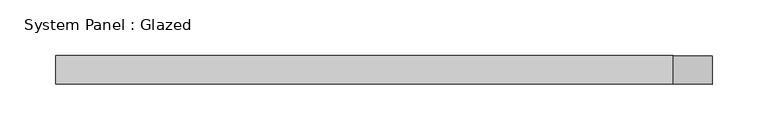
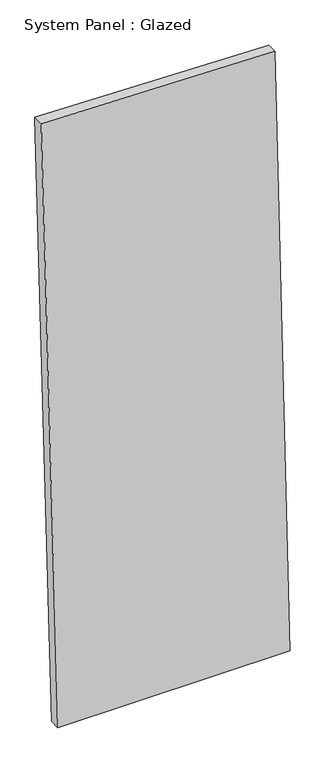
"""IFC4 building model written with IfcOpenShell, lengths in millimetres: plate geometry, System Panel : Glazed."""

from ifc_helpers import new_model, si_unit, frame, origin, place, context, project, spatial, polyline, outline, extrude, source, transform, mapped, element, save


def system_panel_glazed_0f1dc422(model_context):
    return source(origin(), model_context, "Body", "SweptSolid", [
        extrude(outline(polyline([(0.0, -253.9477032), (0.0, 293.6414966), (1505.8333476, 258.8553566), (1519.2055561, -293.6414966), (0.0, -253.9477032)])), frame((0.0, -44.45, 0.0), z_axis=(0.0, 1.0, 0.0), x_axis=(0.0, 0.0, 1.0)), (0.0, 0.0, 1.0), 25.4),
    ])


if __name__ == "__main__":
    model = new_model("IFC4")
    model_context = context("Model", 3, world=origin())
    ifc_project = project(units=[si_unit("LENGTHUNIT", "METRE", prefix="MILLI")], contexts=[model_context])
    site = spatial("IfcSite", under=ifc_project)
    building = spatial("IfcBuilding", under=site)
    placement = place(None, origin())
    system_panel_glazed_shape = system_panel_glazed_0f1dc422(model_context)
    element("IfcPlate", 1, ObjectType="System Panel : Glazed", at=placement, inside=building, context=model_context, shape_type="MappedRepresentation", body=[
        mapped(system_panel_glazed_shape, transform((0.0, 0.0, 0.0), x_axis=(1.0, 0.0, 0.0), y_axis=(0.0, 1.0, 0.0), z_axis=(0.0, 0.0, 1.0))),
    ])
    save(model, "model.ifc")
